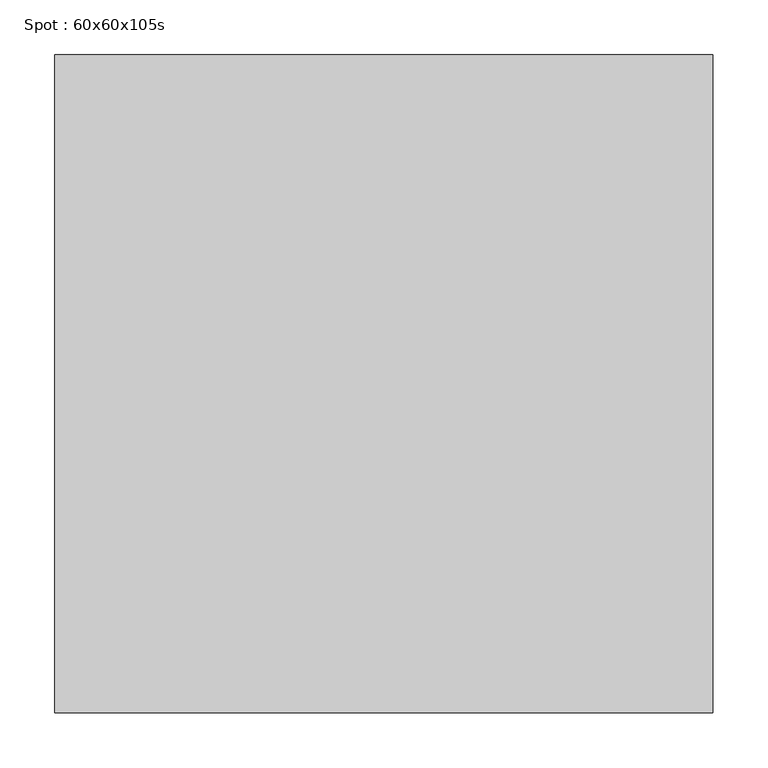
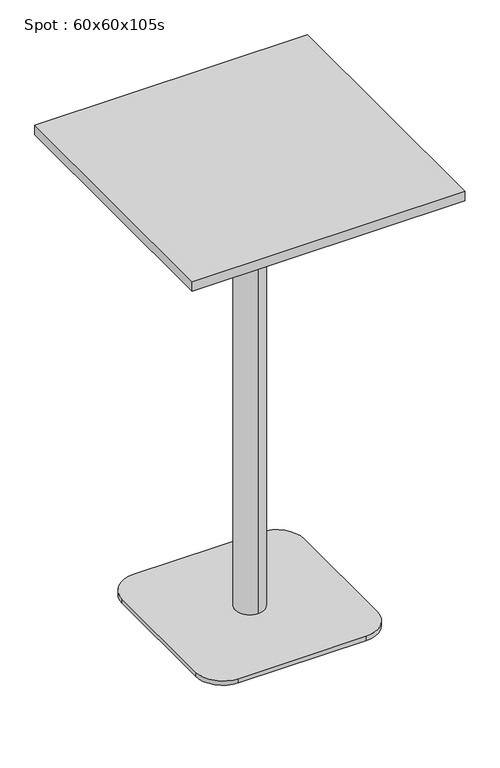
"""IFC4 building model written with IfcOpenShell, lengths in millimetres: furniture geometry, Spot : 60x60x105s."""

from ifc_helpers import new_model, si_unit, point, frame, frame_2d, origin, origin_with_axes, place, context, project, spatial, polyline, circle_curve, trimmed, segment, composite_curve, outline, extrude, source, transform, mapped, element, save
from ifc_brep_helpers import plane_surface, cylinder_surface, revolved_surface, advanced_brep


def spot_60x60x105s_a13521a9(model_context):
    return source(origin(), model_context, "Body", "SolidModel", [
        extrude(outline(polyline([(300.0, 300.0), (300.0, -300.0), (-300.0, -300.0), (-300.0, 300.0), (300.0, 300.0)])), frame((0.0, 0.0, 1028.0), z_axis=(0.0, 0.0, 1.0), x_axis=(1.0, 0.0, 0.0)), (0.0, 0.0, 1.0), 22.0),
        extrude(outline(composite_curve([segment(trimmed(circle_curve(frame_2d((140.0, 140.0)), 60.0), [point((140.0, 200.0))], [point((200.0, 140.0))], False, "CARTESIAN"), True, "CONTINUOUS"), segment(polyline([(200.0, 140.0), (200.0, -140.0)]), True, "CONTINUOUS"), segment(trimmed(circle_curve(frame_2d((140.0, -140.0)), 60.0), [point((200.0, -140.0))], [point((140.0, -200.0))], False, "CARTESIAN"), True, "CONTINUOUS"), segment(polyline([(140.0, -200.0), (-140.0, -200.0)]), True, "CONTINUOUS"), segment(trimmed(circle_curve(frame_2d((-140.0, -140.0)), 60.0), [point((-140.0, -200.0))], [point((-200.0, -140.0))], False, "CARTESIAN"), True, "CONTINUOUS"), segment(polyline([(-200.0, -140.0), (-200.0, 140.0)]), True, "CONTINUOUS"), segment(trimmed(circle_curve(frame_2d((-140.0, 140.0)), 60.0), [point((-200.0, 140.0))], [point((-140.0, 200.0))], False, "CARTESIAN"), True, "CONTINUOUS"), segment(polyline([(-140.0, 200.0), (140.0, 200.0)]), True, "CONTINUOUS")], self_intersect=False)), origin_with_axes(), (0.0, 0.0, 1.0), 10.0),
        advanced_brep(
        [(0.0, 32.0, 10.0), (0.0, -32.0, 10.0), (0.0, -32.0, 997.406916), (0.0, 32.0, 997.406916), (0.0, 0.0, 10.0), (0.0, 150.0, 1028.0), (0.0, -150.0, 1028.0), (0.0, 0.0, 1028.0), (0.0, 150.0, 1016.7213673), (0.0, -150.0, 1016.7213673)],
        [
            (0, 1, circle_curve(frame((0.0, 0.0, 10.0), z_axis=(0.0, 0.0, 1.0), x_axis=(0.0, -1.0, 0.0)), 32.0)),
            (1, 2),
            (2, 3, circle_curve(frame((0.0, 0.0, 997.406916), z_axis=(0.0, 0.0, -1.0), x_axis=(0.0, -1.0, 0.0)), 32.0)),
            (3, 0),
            (1, 0, circle_curve(frame((0.0, 0.0, 10.0), z_axis=(0.0, 0.0, 1.0), x_axis=(0.0, -1.0, 0.0)), 32.0)),
            (3, 2, circle_curve(frame((0.0, 0.0, 997.406916), z_axis=(0.0, 0.0, -1.0), x_axis=(0.0, -1.0, 0.0)), 32.0)),
            (4, 1),
            (0, 4),
            (5, 6, circle_curve(frame((0.0, 0.0, 1028.0), z_axis=(0.0, 0.0, 1.0), x_axis=(0.0, -1.0, 0.0)), 150.0)),
            (6, 7),
            (7, 5),
            (6, 5, circle_curve(frame((0.0, 0.0, 1028.0), z_axis=(0.0, 0.0, 1.0), x_axis=(0.0, -1.0, 0.0)), 150.0)),
            (8, 9, circle_curve(frame((0.0, 0.0, 1016.7213673), z_axis=(0.0, 0.0, 1.0), x_axis=(0.0, -1.0, 0.0)), 150.0)),
            (9, 6),
            (5, 8),
            (9, 8, circle_curve(frame((0.0, 0.0, 1016.7213673), z_axis=(0.0, 0.0, 1.0), x_axis=(0.0, -1.0, 0.0)), 150.0)),
            (2, 9),
            (8, 3),
        ],
        [
            cylinder_surface(frame((0.0, 0.0, 1390.0), z_axis=(0.0, 0.0, -1.0), x_axis=(0.0, -1.0, 0.0)), 32.0),
            plane_surface(frame((0.0, 0.0, 10.0), z_axis=(0.0, 0.0, -1.0), x_axis=(0.0, -1.0, 0.0))),
            plane_surface(frame((0.0, 0.0, 1028.0), z_axis=(0.0, 0.0, 1.0), x_axis=(0.0, -1.0, 0.0))),
            cylinder_surface(frame((0.0, 0.0, 1390.0), z_axis=(0.0, 0.0, -1.0), x_axis=(0.0, -1.0, 0.0)), 150.0),
            revolved_surface(polyline([(0.0, -150.0, 1016.7213673), (0.0, -32.0, 997.406916)]), (0.0, 0.0, 1390.0), (0.0, 0.0, -1.0)),
        ],
        [
            (0, [[1, 2, 3, 4]]),
            (0, [[5, -4, 6, -2]]),
            (1, [[7, -1, 8]]),
            (1, [[-8, -5, -7]]),
            (2, [[9, 10, 11]]),
            (2, [[12, -11, -10]]),
            (3, [[13, 14, -9, 15]]),
            (3, [[16, -15, -12, -14]]),
            (4, [[-3, 17, -13, 18]]),
            (4, [[-6, -18, -16, -17]]),
        ],
    ),
        extrude(outline(polyline([(0.0, 0.0), (-20.0, 0.0), (-20.0, 20.0), (0.0, 20.0), (0.0, 0.0)])), origin_with_axes(), (0.0, 0.0, 1.0), 10.0),
    ])


if __name__ == "__main__":
    model = new_model("IFC4")
    model_context = context("Model", 3, world=origin())
    ifc_project = project(units=[si_unit("LENGTHUNIT", "METRE", prefix="MILLI")], contexts=[model_context])
    site = spatial("IfcSite", under=ifc_project)
    building = spatial("IfcBuilding", under=site)
    placement = place(None, origin())
    spot_60x60x105s_shape = spot_60x60x105s_a13521a9(model_context)
    element("IfcFurniture", 1, ObjectType="Spot : 60x60x105s", at=placement, inside=building, context=model_context, shape_type="MappedRepresentation", body=[
        mapped(spot_60x60x105s_shape, transform((0.0, 0.0, 0.0), x_axis=(1.0, 0.0, 0.0), y_axis=(0.0, 1.0, 0.0), z_axis=(0.0, 0.0, 1.0))),
    ])
    save(model, "model.ifc")
